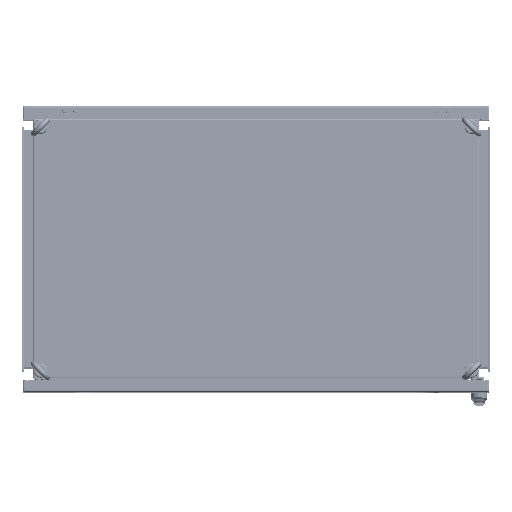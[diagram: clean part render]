
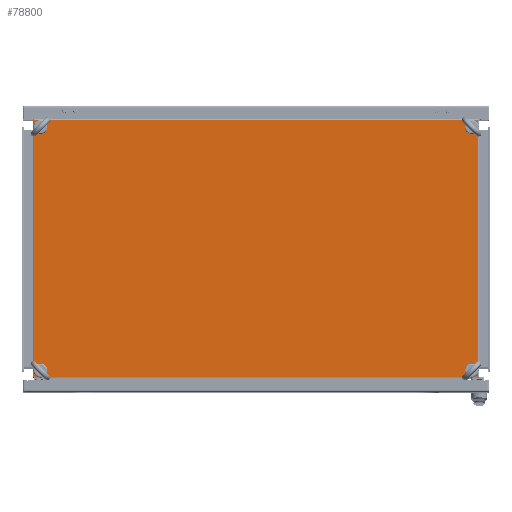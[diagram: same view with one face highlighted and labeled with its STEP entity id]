
A CAD part, top view. The second image highlights one B-rep face of the part: STEP entity #78800.
In plain terms, the highlighted planar face has unit normal (0, 0, 1).
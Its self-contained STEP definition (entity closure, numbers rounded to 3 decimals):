
#7946=LINE('',#125904,#15489);
#7947=LINE('',#125907,#15490);
#7948=LINE('',#125909,#15491);
#7949=LINE('',#125911,#15492);
#15489=VECTOR('',#101687,1000.);
#15490=VECTOR('',#101688,1000.);
#15491=VECTOR('',#101689,1000.);
#15492=VECTOR('',#101690,1000.);
#29346=ORIENTED_EDGE('',*,*,#45910,.F.);
#29347=ORIENTED_EDGE('',*,*,#45911,.F.);
#29348=ORIENTED_EDGE('',*,*,#45912,.F.);
#29349=ORIENTED_EDGE('',*,*,#45913,.F.);
#29350=ORIENTED_EDGE('',*,*,#45914,.T.);
#29351=ORIENTED_EDGE('',*,*,#45915,.F.);
#29352=ORIENTED_EDGE('',*,*,#45916,.T.);
#29353=ORIENTED_EDGE('',*,*,#45917,.T.);
#45910=EDGE_CURVE('',#55211,#55211,#59778,.T.);
#45911=EDGE_CURVE('',#55212,#55212,#59779,.T.);
#45912=EDGE_CURVE('',#55213,#55213,#59780,.T.);
#45913=EDGE_CURVE('',#55214,#55214,#59781,.T.);
#45914=EDGE_CURVE('',#55215,#55216,#7946,.T.);
#45915=EDGE_CURVE('',#55217,#55216,#7947,.F.);
#45916=EDGE_CURVE('',#55217,#55218,#7948,.T.);
#45917=EDGE_CURVE('',#55218,#55215,#7949,.T.);
#55211=VERTEX_POINT('',#125897);
#55212=VERTEX_POINT('',#125899);
#55213=VERTEX_POINT('',#125901);
#55214=VERTEX_POINT('',#125903);
#55215=VERTEX_POINT('',#125905);
#55216=VERTEX_POINT('',#125906);
#55217=VERTEX_POINT('',#125908);
#55218=VERTEX_POINT('',#125910);
#59778=CIRCLE('',#87391,6.5);
#59779=CIRCLE('',#87392,6.5);
#59780=CIRCLE('',#87393,6.5);
#59781=CIRCLE('',#87394,6.5);
#64827=EDGE_LOOP('',(#29346));
#64828=EDGE_LOOP('',(#29347));
#64829=EDGE_LOOP('',(#29348));
#64830=EDGE_LOOP('',(#29349));
#64831=EDGE_LOOP('',(#29350,#29351,#29352,#29353));
#71175=FACE_BOUND('',#64827,.T.);
#71176=FACE_BOUND('',#64828,.T.);
#71177=FACE_BOUND('',#64829,.T.);
#71178=FACE_BOUND('',#64830,.T.);
#71179=FACE_BOUND('',#64831,.T.);
#75709=PLANE('',#87390);
#78800=ADVANCED_FACE('',(#71175,#71176,#71177,#71178,#71179),#75709,.F.);
#87390=AXIS2_PLACEMENT_3D('',#125895,#101677,#101678);
#87391=AXIS2_PLACEMENT_3D('',#125896,#101679,#101680);
#87392=AXIS2_PLACEMENT_3D('',#125898,#101681,#101682);
#87393=AXIS2_PLACEMENT_3D('',#125900,#101683,#101684);
#87394=AXIS2_PLACEMENT_3D('',#125902,#101685,#101686);
#101677=DIRECTION('',(0.,0.,-1.));
#101678=DIRECTION('',(-1.,0.,0.));
#101679=DIRECTION('',(0.,0.,1.));
#101680=DIRECTION('',(1.,0.,0.));
#101681=DIRECTION('',(0.,0.,1.));
#101682=DIRECTION('',(1.,0.,0.));
#101683=DIRECTION('',(0.,0.,1.));
#101684=DIRECTION('',(1.,0.,0.));
#101685=DIRECTION('',(0.,0.,1.));
#101686=DIRECTION('',(1.,0.,0.));
#101687=DIRECTION('',(0.,-1.,0.));
#101688=DIRECTION('',(1.,0.,0.));
#101689=DIRECTION('',(0.,1.,0.));
#101690=DIRECTION('',(-1.,0.,0.));
#125895=CARTESIAN_POINT('',(0.,0.,0.));
#125896=CARTESIAN_POINT('',(460.5,260.5,0.));
#125897=CARTESIAN_POINT('',(467.,260.5,0.));
#125898=CARTESIAN_POINT('',(-460.5,260.5,0.));
#125899=CARTESIAN_POINT('',(-454.,260.5,0.));
#125900=CARTESIAN_POINT('',(460.5,-260.5,0.));
#125901=CARTESIAN_POINT('',(467.,-260.5,0.));
#125902=CARTESIAN_POINT('',(-460.5,-260.5,0.));
#125903=CARTESIAN_POINT('',(-454.,-260.5,0.));
#125904=CARTESIAN_POINT('',(-474.2,274.2,0.));
#125905=CARTESIAN_POINT('',(-474.2,274.2,0.));
#125906=CARTESIAN_POINT('',(-474.2,-274.2,0.));
#125907=CARTESIAN_POINT('',(474.2,-274.2,0.));
#125908=CARTESIAN_POINT('',(474.2,-274.2,0.));
#125909=CARTESIAN_POINT('',(474.2,-274.2,0.));
#125910=CARTESIAN_POINT('',(474.2,274.2,0.));
#125911=CARTESIAN_POINT('',(474.2,274.2,0.));
